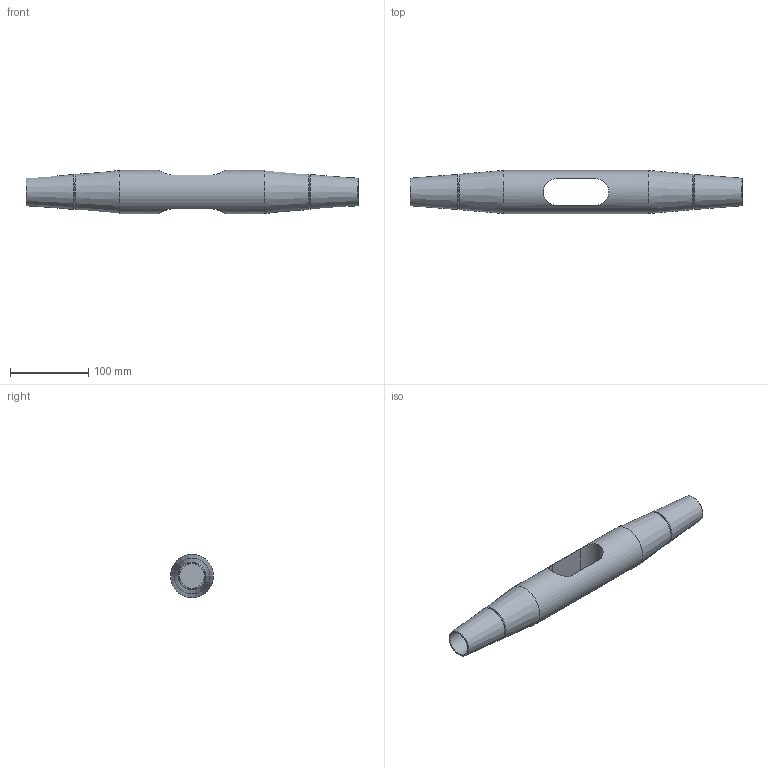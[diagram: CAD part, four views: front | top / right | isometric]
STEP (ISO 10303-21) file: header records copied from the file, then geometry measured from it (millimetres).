
FILE_DESCRIPTION(/* description */ (''),/* implementation_level */ '2;1');
FILE_NAME(/* name */ 'G:\Engineering\700 CAD\Internet-PX-1-step-igs-dxf\520-KMF-Arbeitsdateien\520-030-KMF.stp',/* time_stamp */ '2020-07-02T13:21:00+02:00',/* author */ ('schwarz'),/* organization */ (''),/* preprocessor_version */ 'ST-DEVELOPER v16.1',/* originating_system */ 'Autodesk Inventor 2016',/* authorisation */ '');
FILE_SCHEMA (('AUTOMOTIVE_DESIGN { 1 0 10303 214 3 1 1 }'));
Length unit declared in the file: centimetre
Products named in the file (1): Kreuzmuffen-Set 520 030 Kunde
Bounding box: 424 x 55 x 55 mm (x, y, z)
Volume: 615778.8 mm3; surface area: 81202.9 mm2
Topology: 1 solids, 1 shells, 21 faces, 43 edges, 26 vertices
Faces by surface type: cone 10, plane 6, cylinder 5
Full cylindrical faces by diameter (mm): 31.5 x2, 55 x1
Entity records: 637 total; most frequent: CARTESIAN_POINT 190, DIRECTION 84, ORIENTED_EDGE 56, EDGE_LOOP 38, AXIS2_PLACEMENT_3D 38, EDGE_CURVE 28, VERTEX_POINT 24, STYLED_ITEM 22
